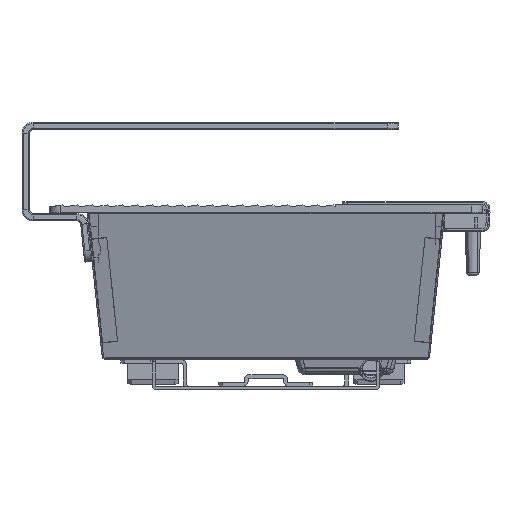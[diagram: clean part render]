
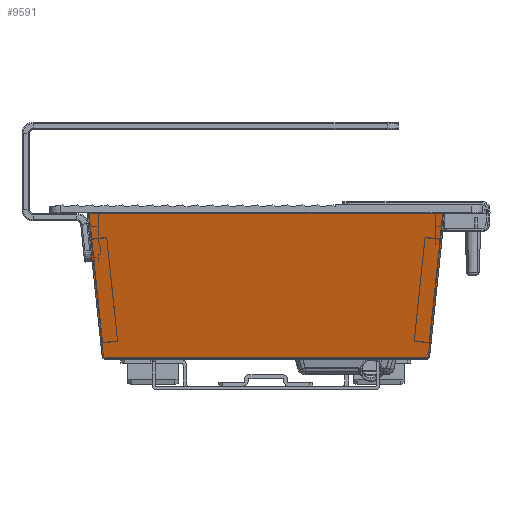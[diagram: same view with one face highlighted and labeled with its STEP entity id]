
A CAD part, front view. The second image highlights one B-rep face of the part: STEP entity #9591.
In plain terms, the highlighted planar face has unit normal (0, -0.974, -0.225).
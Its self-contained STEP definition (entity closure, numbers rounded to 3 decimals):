
#616 = VERTEX_POINT('',#617);
#617 = CARTESIAN_POINT('',(85.3,-752.24,-76.925));
#732 = VERTEX_POINT('',#733);
#733 = CARTESIAN_POINT('',(-85.3,-752.24,-76.925));
#9580 = EDGE_CURVE('',#616,#732,#9581,.T.);
#9581 = LINE('',#9582,#9583);
#9582 = CARTESIAN_POINT('',(85.3,-752.24,-76.925));
#9583 = VECTOR('',#9584,1.);
#9584 = DIRECTION('',(-1.,0.,0.));
#9591 = ADVANCED_FACE('',(#9592),#9683,.T.);
#9592 = FACE_BOUND('',#9593,.F.);
#9593 = EDGE_LOOP('',(#9594,#9604,#9612,#9620,#9628,#9636,#9644,#9653,
    #9659,#9660,#9668,#9677));
#9594 = ORIENTED_EDGE('',*,*,#9595,.T.);
#9595 = EDGE_CURVE('',#9596,#9598,#9600,.T.);
#9596 = VERTEX_POINT('',#9597);
#9597 = CARTESIAN_POINT('',(-93.541,-766.794,
    -13.885));
#9598 = VERTEX_POINT('',#9599);
#9599 = CARTESIAN_POINT('',(-92.844,-766.81,
    -13.815));
#9600 = LINE('',#9601,#9602);
#9601 = CARTESIAN_POINT('',(-93.541,-766.794,
    -13.885));
#9602 = VECTOR('',#9603,1.);
#9603 = DIRECTION('',(0.995,-0.023,
    0.099));
#9604 = ORIENTED_EDGE('',*,*,#9605,.T.);
#9605 = EDGE_CURVE('',#9598,#9606,#9608,.T.);
#9606 = VERTEX_POINT('',#9607);
#9607 = CARTESIAN_POINT('',(-94.296,-770.,0.));
#9608 = LINE('',#9609,#9610);
#9609 = CARTESIAN_POINT('',(-92.844,-766.81,
    -13.815));
#9610 = VECTOR('',#9611,1.);
#9611 = DIRECTION('',(-0.102,-0.224,0.969));
#9612 = ORIENTED_EDGE('',*,*,#9613,.T.);
#9613 = EDGE_CURVE('',#9606,#9614,#9616,.T.);
#9614 = VERTEX_POINT('',#9615);
#9615 = CARTESIAN_POINT('',(94.296,-770.,0.));
#9616 = LINE('',#9617,#9618);
#9617 = CARTESIAN_POINT('',(-94.296,-770.,0.));
#9618 = VECTOR('',#9619,1.);
#9619 = DIRECTION('',(1.,0.,0.));
#9620 = ORIENTED_EDGE('',*,*,#9621,.F.);
#9621 = EDGE_CURVE('',#9622,#9614,#9624,.T.);
#9622 = VERTEX_POINT('',#9623);
#9623 = CARTESIAN_POINT('',(92.844,-766.81,
    -13.815));
#9624 = LINE('',#9625,#9626);
#9625 = CARTESIAN_POINT('',(92.844,-766.81,
    -13.815));
#9626 = VECTOR('',#9627,1.);
#9627 = DIRECTION('',(0.102,-0.224,0.969));
#9628 = ORIENTED_EDGE('',*,*,#9629,.F.);
#9629 = EDGE_CURVE('',#9630,#9622,#9632,.T.);
#9630 = VERTEX_POINT('',#9631);
#9631 = CARTESIAN_POINT('',(93.541,-766.794,
    -13.885));
#9632 = LINE('',#9633,#9634);
#9633 = CARTESIAN_POINT('',(93.541,-766.794,
    -13.885));
#9634 = VECTOR('',#9635,1.);
#9635 = DIRECTION('',(-0.995,-0.023,
    0.099));
#9636 = ORIENTED_EDGE('',*,*,#9637,.F.);
#9637 = EDGE_CURVE('',#9638,#9630,#9640,.T.);
#9638 = VERTEX_POINT('',#9639);
#9639 = CARTESIAN_POINT('',(87.007,-752.443,
    -76.05));
#9640 = LINE('',#9641,#9642);
#9641 = CARTESIAN_POINT('',(87.007,-752.443,
    -76.05));
#9642 = VECTOR('',#9643,1.);
#9643 = DIRECTION('',(0.102,-0.224,0.969));
#9644 = ORIENTED_EDGE('',*,*,#9645,.F.);
#9645 = EDGE_CURVE('',#9646,#9638,#9648,.T.);
#9646 = VERTEX_POINT('',#9647);
#9647 = CARTESIAN_POINT('',(86.012,-752.24,
    -76.925));
#9648 = CIRCLE('',#9649,1.);
#9649 = AXIS2_PLACEMENT_3D('',#9650,#9651,#9652);
#9650 = CARTESIAN_POINT('',(86.012,-752.465,
    -75.951));
#9651 = DIRECTION('',(0.,-0.974,
    -0.225));
#9652 = DIRECTION('',(0.,0.225,-0.974
    ));
#9653 = ORIENTED_EDGE('',*,*,#9654,.T.);
#9654 = EDGE_CURVE('',#9646,#616,#9655,.T.);
#9655 = LINE('',#9656,#9657);
#9656 = CARTESIAN_POINT('',(86.012,-752.24,
    -76.925));
#9657 = VECTOR('',#9658,1.);
#9658 = DIRECTION('',(-1.,0.,0.));
#9659 = ORIENTED_EDGE('',*,*,#9580,.T.);
#9660 = ORIENTED_EDGE('',*,*,#9661,.F.);
#9661 = EDGE_CURVE('',#9662,#732,#9664,.T.);
#9662 = VERTEX_POINT('',#9663);
#9663 = CARTESIAN_POINT('',(-86.012,-752.24,
    -76.925));
#9664 = LINE('',#9665,#9666);
#9665 = CARTESIAN_POINT('',(-86.012,-752.24,
    -76.925));
#9666 = VECTOR('',#9667,1.);
#9667 = DIRECTION('',(1.,0.,0.));
#9668 = ORIENTED_EDGE('',*,*,#9669,.F.);
#9669 = EDGE_CURVE('',#9670,#9662,#9672,.T.);
#9670 = VERTEX_POINT('',#9671);
#9671 = CARTESIAN_POINT('',(-87.007,-752.443,
    -76.05));
#9672 = CIRCLE('',#9673,1.);
#9673 = AXIS2_PLACEMENT_3D('',#9674,#9675,#9676);
#9674 = CARTESIAN_POINT('',(-86.012,-752.465,
    -75.951));
#9675 = DIRECTION('',(0.,-0.974,-0.225));
#9676 = DIRECTION('',(-0.995,0.023,
    -0.099));
#9677 = ORIENTED_EDGE('',*,*,#9678,.T.);
#9678 = EDGE_CURVE('',#9670,#9596,#9679,.T.);
#9679 = LINE('',#9680,#9681);
#9680 = CARTESIAN_POINT('',(-87.007,-752.443,
    -76.05));
#9681 = VECTOR('',#9682,1.);
#9682 = DIRECTION('',(-0.102,-0.224,0.969));
#9683 = PLANE('',#9684);
#9684 = AXIS2_PLACEMENT_3D('',#9685,#9686,#9687);
#9685 = CARTESIAN_POINT('',(-95.,-770.,0.));
#9686 = DIRECTION('',(0.,-0.974,-0.225));
#9687 = DIRECTION('',(0.,0.225,-0.974));
